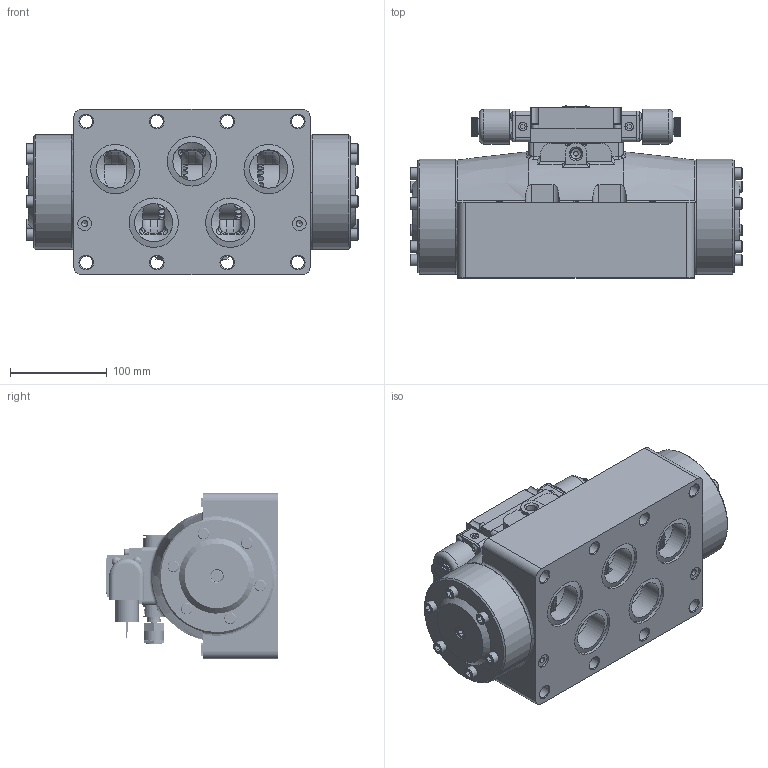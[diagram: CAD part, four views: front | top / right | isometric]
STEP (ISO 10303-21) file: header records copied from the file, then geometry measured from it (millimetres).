
FILE_DESCRIPTION(/* description */ (''),/* implementation_level */ '2;1');
FILE_NAME(/* name */ 'D:\Website Files\stp\Valves\Standard\ESS\ESS16PXLZ.stp',/* time_stamp */ '2019-02-12T11:40:08-05:00',/* author */ ('RMcKenna'),/* organization */ (''),/* preprocessor_version */ 'ST-DEVELOPER v17',/* originating_system */ 'Autodesk Inventor 2018',/* authorisation */ '');
FILE_SCHEMA (('AUTOMOTIVE_DESIGN { 1 0 10303 214 3 1 1 }'));
Products named in the file (1): Part90
Bounding box: 343.84 x 178.35 x 171.45 mm (x, y, z)
Volume: 4635348.7 mm3; surface area: 574448.2 mm2
Topology: 4 solids, 65 shells, 3325 faces, 8659 edges, 5721 vertices
Faces by surface type: plane 1581, cylinder 917, cone 324, bspline 262, torus 229, sphere 12
Full cylindrical faces by diameter (mm): 1.3 x2, 1.397 x2, 1.5 x2, 1.524 x6, 2.032 x22, 2.07 x2, 2.261 x2, 2.35 x8, 2.778 x2, 2.8 x2, 2.819 x2, 3 x8, 3.048 x2, 3.175 x8, 3.4 x2, 3.683 x14, 3.861 x2, 4.191 x4, 4.366 x2, 4.369 x3, 4.763 x7, 4.826 x12, 4.953 x2, 5.15 x8, 5.156 x8, 5.159 x4, 5.5 x2, 5.944 x3, 6.35 x2, 6.401 x12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
Entity records: 115693 total; most frequent: CARTESIAN_POINT 31877, ORIENTED_EDGE 17226, DIRECTION 16578, EDGE_CURVE 8613, AXIS2_PLACEMENT_3D 6218, VERTEX_POINT 5719, LINE 4142, VECTOR 4142
